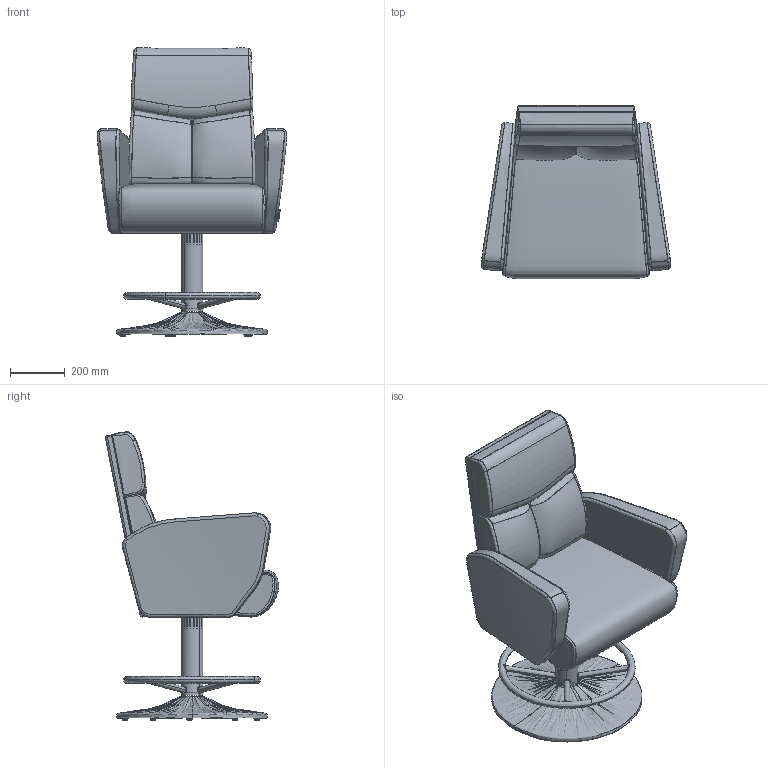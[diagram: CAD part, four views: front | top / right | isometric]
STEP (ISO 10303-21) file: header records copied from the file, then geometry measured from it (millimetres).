
FILE_DESCRIPTION(/* description */ (''),/* implementation_level */ '2;1');
FILE_NAME(/* name */ 'MAGNUM',/* time_stamp */ '2025-08-26T10:21:55+02:00',/* author */ (''),/* organization */ (''),/* preprocessor_version */ 'ST-DEVELOPER v19.2',/* originating_system */ 'Rhino 8.22',/* authorisation */ '');
FILE_SCHEMA (('CONFIG_CONTROL_DESIGN'));
Products named in the file (1): Document
Bounding box: 692.32 x 633.02 x 1057.08 mm (x, y, z)
Volume: 48130469.7 mm3; surface area: 5788896 mm2
Topology: 30 solids, 38 shells, 2908 faces, 7974 edges, 5150 vertices
Faces by surface type: plane 2049, bspline 713, cylinder 146
Entity records: 412528 total; most frequent: CARTESIAN_POINT 358335, ORIENTED_EDGE 15890, EDGE_CURVE 7980, B_SPLINE_CURVE_WITH_KNOTS 7149, VERTEX_POINT 5150, EDGE_LOOP 3005, DIRECTION 2919, ADVANCED_FACE 2908
